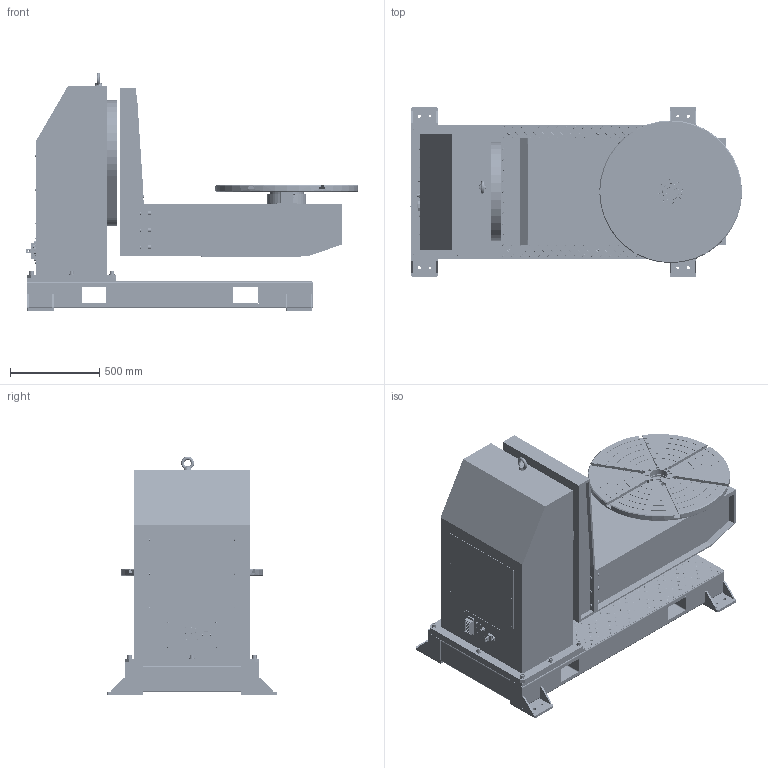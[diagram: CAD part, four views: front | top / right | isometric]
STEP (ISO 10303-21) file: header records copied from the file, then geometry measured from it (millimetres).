
FILE_DESCRIPTION (( 'STEP AP214' ), '1' );
FILE_NAME ('QJ2P500-2(双轴L型变位机).STEP', '2018-11-27T01:24:41', ( 'Windows 用户' ), ( '创新计算机公司' ), 'SwSTEP 2.0', 'SolidWorks 2016', '' );
FILE_SCHEMA (( 'AUTOMOTIVE_DESIGN' ));
Length unit declared in the file: millimetre
Products named in the file (37): 正极接线板改1对外模型; 工作台面-圆盘P2L对外模型; 从下盖板双轴对外模型; 转盘垫高板L对外模型; GB825-88吊环螺钉M20×35; RV-50C-P2L勤俋耀倰; GB／T70．2-2000内六角平圆头螺钉M6×16对外模型; 錨璃3勤俋耀倰; GB／T70．2-2000内六角平圆头螺钉M4×12对外模型; 錨璃2勤俋耀倰; GB／T70．1-2000内六角圆柱头螺钉M16×45对外模型; L底座盖板对外模型; GB／T95-2002平垫圈C级16×3对外模型; 一轴箱体对外模型; 錨璃15勤俋耀倰; L型底座对外模型_默认<按加工>; 錨璃9勤俋耀倰; 錨璃8勤俋耀倰; QJ2P500-2(邧粣L倰曹弇儂); 錨璃7勤俋耀倰; L型二级轴组件对外模型; 修改结构组件对外模型; 导电装置-FANUC-P2L对外模型; 托线板改2对外模型; hexagon socket head cap screws gb_GB_FASTENER_SCREWS_HSHCS M6X10-N; 伺服接线板H16B-BK-1LSC对外模型; spring lock washers--normal type gb_GB_FASTENER_WASHER_SW 6; KQB2E10-00勤俋耀倰; L板改铸造焊接P2L对外模型; 3勤俋耀倰; 导电板改铸造焊接P2L对外模型; 2勤俋耀倰; TC倰 55X72X8-怢俜WKF-P2L勤俋耀倰; 1勤俋耀倰; GB／T276-94深沟球轴承61813-P2L对外模型; 控制盖板P2对外模型; 腴厒奪P2L勤俋耀倰
Assembly tree (98 placements, depth 4):
  QJ2P500-2(邧粣L倰曹弇儂)
    L型底座对外模型_默认<按加工>
    一轴箱体对外模型
    L底座盖板对外模型
    錨璃2勤俋耀倰
    L型二级轴组件对外模型
      錨璃3勤俋耀倰
      RV-50C-P2L勤俋耀倰
      转盘垫高板L对外模型
      工作台面-圆盘P2L对外模型
      腴厒奪P2L勤俋耀倰
      GB／T276-94深沟球轴承61813-P2L对外模型
      TC倰 55X72X8-怢俜WKF-P2L勤俋耀倰
      导电装置-FANUC-P2L对外模型
        导电板改铸造焊接P2L对外模型
        L板改铸造焊接P2L对外模型
        spring lock washers--normal type gb_GB_FASTENER_WASHER_SW 6  x2
        hexagon socket head cap screws gb_GB_FASTENER_SCREWS_HSHCS M6X10-N  x2
    錨璃7勤俋耀倰
    錨璃8勤俋耀倰
    錨璃9勤俋耀倰
    錨璃15勤俋耀倰
    GB／T95-2002平垫圈C级16×3对外模型  x14
    GB／T70．1-2000内六角圆柱头螺钉M16×45对外模型  x14
    GB／T70．2-2000内六角平圆头螺钉M4×12对外模型  x30
    GB／T70．2-2000内六角平圆头螺钉M6×16对外模型  x6
    GB825-88吊环螺钉M20×35
    修改结构组件对外模型
      从下盖板双轴对外模型
      正极接线板改1对外模型
      控制盖板P2对外模型
      KQB2E10-00勤俋耀倰
        1勤俋耀倰
        2勤俋耀倰
        3勤俋耀倰
      伺服接线板H16B-BK-1LSC对外模型
      托线板改2对外模型
Bounding box: 1862.5 x 950 x 1338.4 mm (x, y, z)
Volume: 138252726.7 mm3; surface area: 23211425.2 mm2
Topology: 211 solids, 216 shells, 4850 faces, 13063 edges, 6706 vertices
Faces by surface type: plane 1410, bspline 1291, cylinder 1046, cone 623, sphere 256, torus 224
Entity records: 136335 total; most frequent: CARTESIAN_POINT 50190, ORIENTED_EDGE 15974, DIRECTION 13172, EDGE_CURVE 7987, VERTEX_POINT 5297, AXIS2_PLACEMENT_3D 5177, EDGE_LOOP 4712, ADVANCED_FACE 3627
